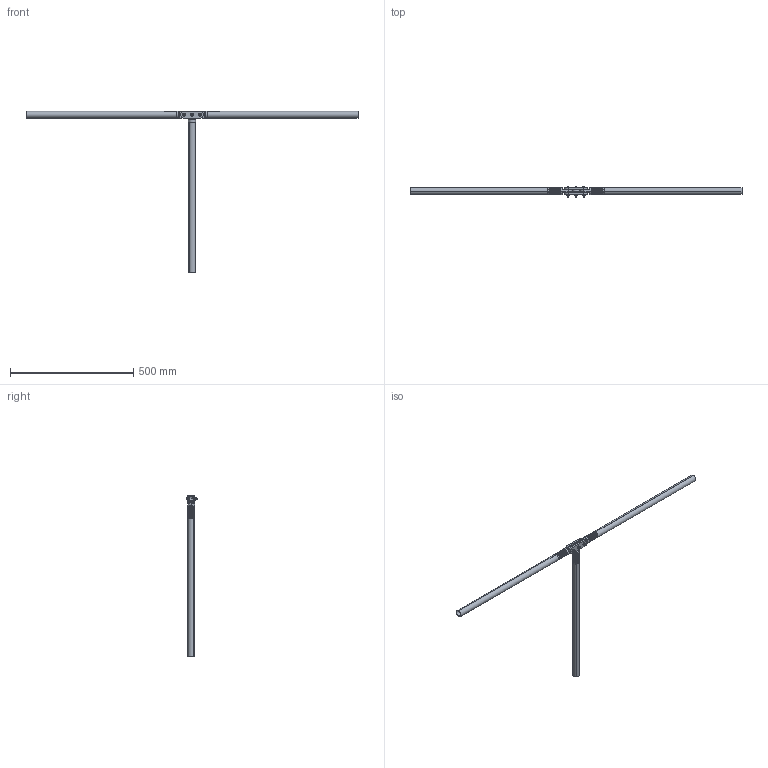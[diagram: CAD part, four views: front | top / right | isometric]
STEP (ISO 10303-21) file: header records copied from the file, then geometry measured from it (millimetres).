
FILE_DESCRIPTION (( 'STEP AP214' ), '1' );
FILE_NAME ('Two Triple Link Connectors to Three Male Clevis Connectors Connection.STEP', '2013-08-19T16:20:57', ( 'ydmin' ), ( 'Microsoft' ), 'SwSTEP 2.0', 'SolidWorks 2013', '' );
FILE_SCHEMA (( 'AUTOMOTIVE_DESIGN' ));
Length unit declared in the file: inch
Products named in the file (6): 6.000 Inch Tube; 95479A111_95479A111; 91255A546_91255A546; DRP-002-0534-00; DRP-002-0509-00_MALE YOKE TUBE INSERT; Two Triple Link Connectors to Three Male Clevis Connectors Connection
Assembly tree (14 placements, depth 2):
  Two Triple Link Connectors to Three Male Clevis Connectors Connection
    DRP-002-0509-00_MALE YOKE TUBE INSERT  x3
    DRP-002-0534-00  x2
    91255A546_91255A546  x3
    95479A111_95479A111  x3
    6.000 Inch Tube  x3
Bounding box: 1344.47 x 41.45 x 654.77 mm (x, y, z)
Volume: 266542.4 mm3; surface area: 361991.8 mm2
Topology: 14 solids, 14 shells, 1705 faces, 4113 edges, 2439 vertices
Faces by surface type: cylinder 770, cone 492, plane 407, torus 24, sphere 12
Entity records: 20540 total; most frequent: CARTESIAN_POINT 6911, DIRECTION 2866, ORIENTED_EDGE 2762, EDGE_CURVE 1381, AXIS2_PLACEMENT_3D 1066, VERTEX_POINT 821, LINE 734, VECTOR 734
